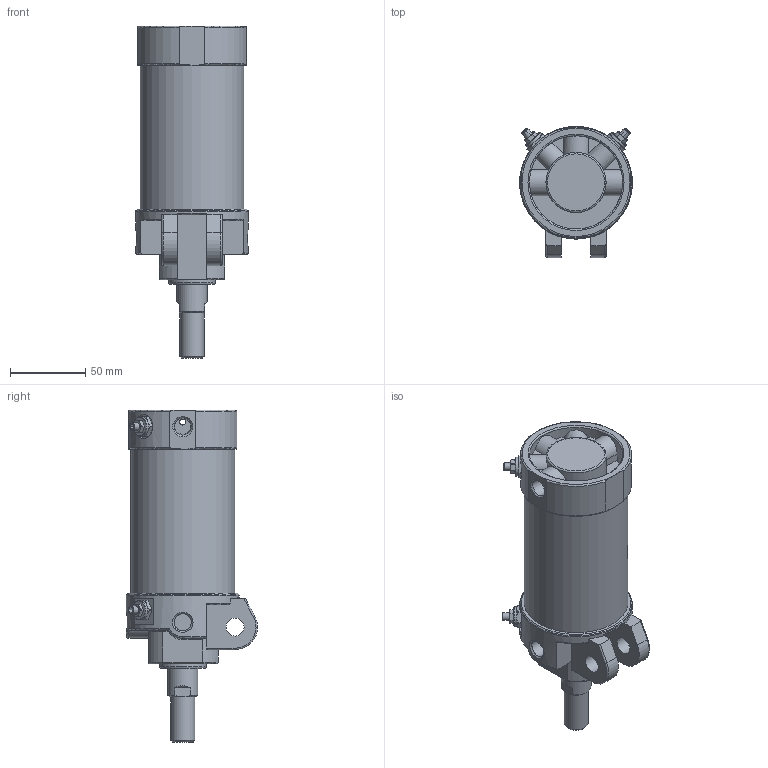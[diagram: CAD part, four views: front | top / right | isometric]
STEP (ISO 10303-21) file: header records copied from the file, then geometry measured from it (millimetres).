
FILE_DESCRIPTION((''),'2;1');
FILE_NAME('I:\3D電子目錄\氣缸\DCK\DCK\DCK-1B-63x50.stp','2008-02-26T15:17:50',('Administrator'),(''),'Autodesk Inventor 11','Autodesk Inventor 11','');
FILE_SCHEMA(('AUTOMOTIVE_DESIGN { 1 0 10303 214 1 1 1 1 }'));
Length unit declared in the file: millimetre
Products named in the file (6): DCK-1B-63; 緩衝針; 緩衝針-1; 緩衝針-201; 緩衝針-3
Assembly tree (8 placements, depth 3):
  DCK-1B-63
    DCK-1B-63
    緩衝針  x4
      緩衝針-1
      緩衝針-201
      緩衝針-3
Bounding box: 75 x 87.29 x 221 mm (x, y, z)
Volume: 321536.5 mm3; surface area: 114856.3 mm2
Topology: 16 solids, 16 shells, 588 faces, 1291 edges, 803 vertices
Faces by surface type: plane 217, cylinder 167, cone 131, torus 42, bspline 31
Full cylindrical faces by diameter (mm): 2 x1, 3 x2, 3.8 x2, 4 x6, 4.6 x4, 5 x8, 5.1 x4, 5.2 x12, 5.5 x4, 7 x1, 7.25 x1, 7.9 x4, 8 x2, 11.3 x3, 12 x2, 12.8 x4, 16 x2, 20 x1, 21 x1, 22 x2, 23 x1, 24.7 x1, 26 x1, 27 x1, 28 x1, 29 x1, 31 x1, 33 x1, 62 x1, 62.7 x1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
Entity records: 12361 total; most frequent: CARTESIAN_POINT 5252, DIRECTION 1435, ORIENTED_EDGE 1302, EDGE_CURVE 651, AXIS2_PLACEMENT_3D 626, EDGE_LOOP 507, VERTEX_POINT 468, FACE_OUTER_BOUND 339
